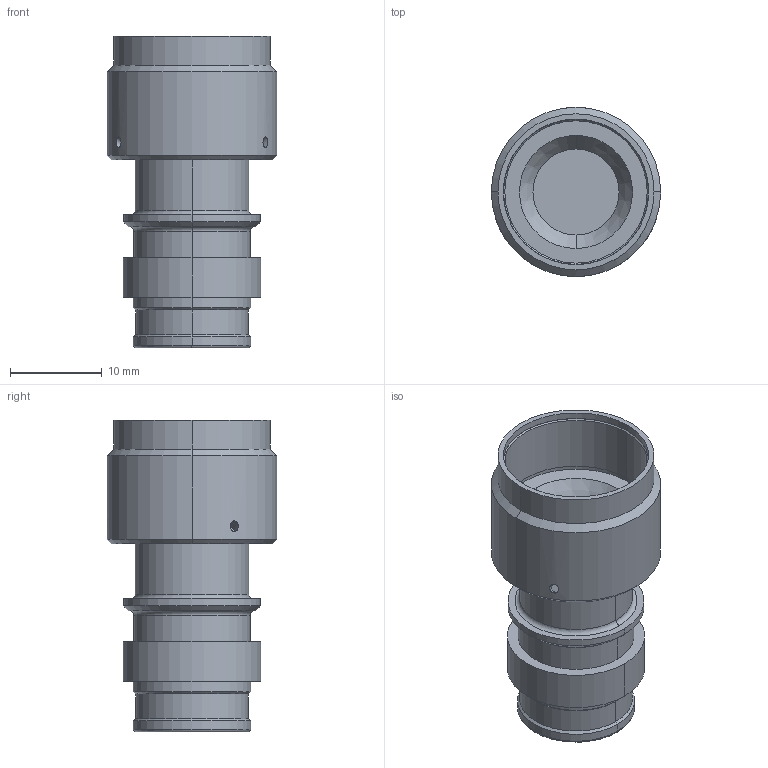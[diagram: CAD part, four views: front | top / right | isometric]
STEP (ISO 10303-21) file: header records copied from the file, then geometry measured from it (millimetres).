
FILE_DESCRIPTION((''),'2;1');
FILE_NAME('C-D06464-000','2015-01-15T',('workeradm'),('Tyco Electronics Ltd.'),'PRO/ENGINEER BY PARAMETRIC TECHNOLOGY CORPORATION, 2014090','PRO/ENGINEER BY PARAMETRIC TECHNOLOGY CORPORATION, 2014090','');
FILE_SCHEMA(('AUTOMOTIVE_DESIGN { 1 0 10303 214 1 1 1 1 }'));
Length unit declared in the file: millimetre
Products named in the file (1): C-D06464-000
Bounding box: 18.5 x 18.5 x 34 mm (x, y, z)
Volume: 4526.6 mm3; surface area: 2773.3 mm2
Topology: 1 solids, 1 shells, 71 faces, 140 edges, 84 vertices
Faces by surface type: cylinder 34, plane 15, cone 14, torus 8
Entity records: 2131 total; most frequent: CARTESIAN_POINT 428, DIRECTION 362, ORIENTED_EDGE 280, AXIS2_PLACEMENT_3D 157, EDGE_CURVE 140, COLOUR_RGB 126, CIRCLE 86, VERTEX_POINT 84
